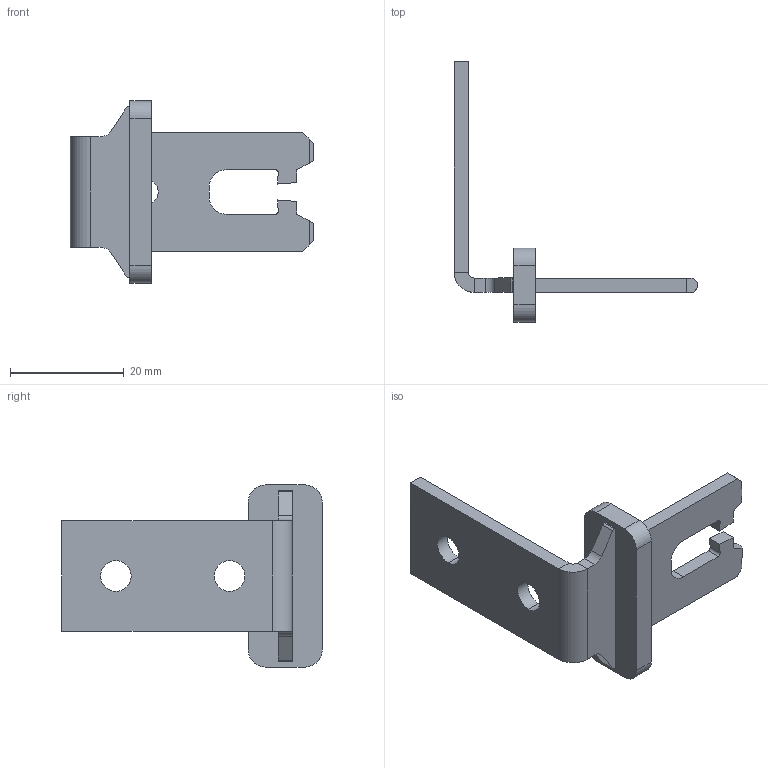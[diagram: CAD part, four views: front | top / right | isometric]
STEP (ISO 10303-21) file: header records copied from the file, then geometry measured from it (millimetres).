
FILE_DESCRIPTION (( 'STEP AP203' ), '1' );
FILE_NAME ('ZF_STEP_VF_KEYF21.STEP', '2026-07-20T08:55:26', ( '' ), ( '' ), 'SwSTEP 2.0', 'SolidWorks 2023', '' );
FILE_SCHEMA (( 'CONFIG_CONTROL_DESIGN' ));
Length unit declared in the file: millimetre
Products named in the file (2): ZF_STEP_VF_KEYF21_8499; ZF_STEP_VF_KEYF21
Assembly tree (1 placements, depth 2):
  ZF_STEP_VF_KEYF21
    ZF_STEP_VF_KEYF21_8499
Bounding box: 42.8 x 45.78 x 32 mm (x, y, z)
Volume: 4931 mm3; surface area: 4434.3 mm2
Topology: 1 solids, 1 shells, 63 faces, 172 edges, 112 vertices
Faces by surface type: plane 44, cylinder 19
Entity records: 2188 total; most frequent: CARTESIAN_POINT 351, ORIENTED_EDGE 344, DIRECTION 344, EDGE_CURVE 172, LINE 134, VECTOR 134, VERTEX_POINT 112, AXIS2_PLACEMENT_3D 105
